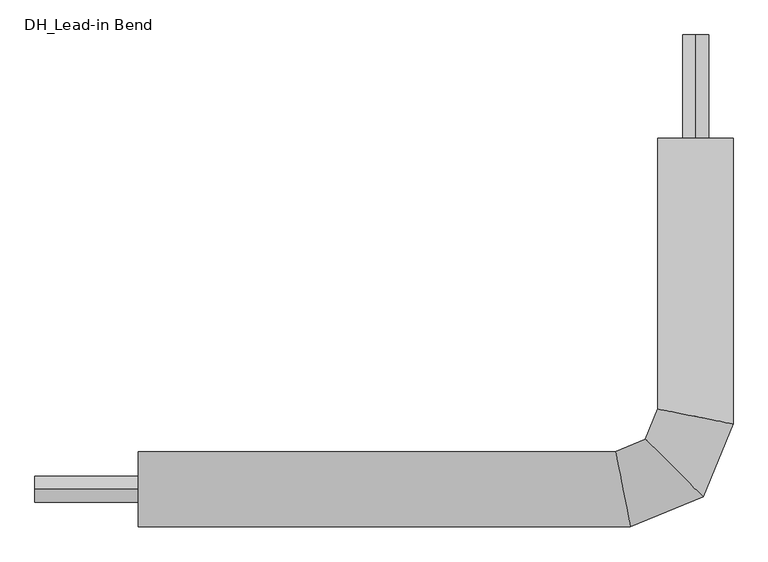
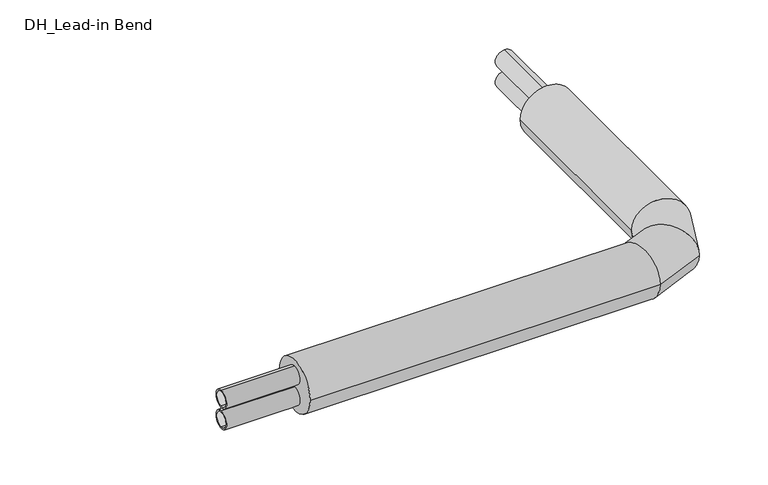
"""IFC4 building model written with IfcOpenShell, lengths in millimetres: pipe fitting geometry, DH_Lead-in Bend : RVT/RVX/RTX DUO 11 Heating Horizontal."""

from ifc_helpers import new_model, si_unit, point, frame, frame_2d, origin, place, context, project, spatial, circle_curve, ellipse_curve, trimmed, segment, composite_curve, outline, extrude, source, transform, mapped, element, save
from ifc_brep_helpers import plane_surface, cylinder_surface, advanced_brep


def dh_lead_in_bend_34a14ad4(model_context):
    return source(origin(), model_context, "Body", "SolidModel", [
        extrude(outline(composite_curve([segment(trimmed(circle_curve(frame_2d((0.0, -37.5)), 31.5), [point((0.0, -6.0))], [point((0.0, -69.0))], False, "CARTESIAN"), True, "CONTINUOUS"), segment(trimmed(circle_curve(frame_2d((0.0, -37.5)), 31.5), [point((0.0, -69.0))], [point((0.0, -6.0))], False, "CARTESIAN"), True, "CONTINUOUS")], self_intersect=False), holes=[composite_curve([segment(trimmed(circle_curve(frame_2d((0.0, -37.5)), 25.7), [point((0.0, -11.8))], [point((0.0, -63.2))], True, "CARTESIAN"), True, "CONTINUOUS"), segment(trimmed(circle_curve(frame_2d((0.0, -37.5)), 25.7), [point((0.0, -63.2))], [point((0.0, -11.8))], True, "CARTESIAN"), True, "CONTINUOUS")], self_intersect=False)]), frame((-1600.0, 0.0, 0.0), z_axis=(1.0, 0.0, 0.0), x_axis=(0.0, 1.0, 0.0)), (0.0, 0.0, 1.0), 250.0),
        extrude(outline(composite_curve([segment(trimmed(circle_curve(frame_2d((37.5, 0.0)), 31.5), [point((6.0, 0.0))], [point((69.0, 0.0))], False, "CARTESIAN"), True, "CONTINUOUS"), segment(trimmed(circle_curve(frame_2d((37.5, 0.0)), 31.5), [point((69.0, 0.0))], [point((6.0, 0.0))], False, "CARTESIAN"), True, "CONTINUOUS")], self_intersect=False), holes=[composite_curve([segment(trimmed(circle_curve(frame_2d((37.5, 0.0)), 25.7), [point((11.8, 0.0))], [point((63.2, 0.0))], True, "CARTESIAN"), True, "CONTINUOUS"), segment(trimmed(circle_curve(frame_2d((37.5, 0.0)), 25.7), [point((63.2, 0.0))], [point((11.8, 0.0))], True, "CARTESIAN"), True, "CONTINUOUS")], self_intersect=False)]), frame((0.0, 850.0, 0.0), z_axis=(0.0, 1.0, 0.0), x_axis=(0.0, 0.0, 1.0)), (0.0, 0.0, 1.0), 250.0),
        advanced_brep(
        [(-1350.0, -91.0, 0.0), (-1350.0, 91.0, 0.0), (-157.7989746, -91.0, 0.0), (-194.0010254, 91.0, 0.0), (91.0, 850.0, 0.0), (-91.0, 850.0, 0.0), (-91.0, 194.0010254, 0.0), (91.0, 157.7989746, 0.0), (18.1284675, -18.1284675, 0.0), (-121.1683019, 121.1683019, 0.0)],
        [
            (0, 1, circle_curve(frame((-1350.0, 0.0, 0.0), z_axis=(-1.0, 0.0, 0.0), x_axis=(0.0, 1.0, 0.0)), 91.0)),
            (1, 0, circle_curve(frame((-1350.0, 0.0, 0.0), z_axis=(-1.0, 0.0, 0.0), x_axis=(0.0, 1.0, 0.0)), 91.0)),
            (0, 2),
            (2, 3, ellipse_curve(frame((-175.9, 0.0, 0.0), z_axis=(-0.9807852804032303, -0.19509032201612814, 0.0), x_axis=(-0.19509032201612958, 0.9807852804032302, 0.0)), 92.7827954, 91.0)),
            (3, 1),
            (3, 2, ellipse_curve(frame((-175.9, 0.0, 0.0), z_axis=(-0.9807852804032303, -0.19509032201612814, 0.0), x_axis=(-0.19509032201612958, 0.9807852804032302, 0.0)), 92.7827954, 91.0)),
            (4, 5, circle_curve(frame((0.0, 850.0, 0.0), z_axis=(0.0, 1.0, 0.0), x_axis=(-1.0, 0.0, 0.0)), 91.0)),
            (5, 4, circle_curve(frame((0.0, 850.0, 0.0), z_axis=(0.0, 1.0, 0.0), x_axis=(-1.0, 0.0, 0.0)), 91.0)),
            (6, 7, ellipse_curve(frame((0.0, 175.9, 0.0), z_axis=(0.1950903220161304, 0.9807852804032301, 0.0), x_axis=(0.9807852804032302, -0.1950903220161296, 0.0)), 92.7827954, 91.0)),
            (7, 4),
            (5, 6),
            (7, 6, ellipse_curve(frame((0.0, 175.9, 0.0), z_axis=(0.1950903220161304, 0.9807852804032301, 0.0), x_axis=(0.9807852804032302, -0.1950903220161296, 0.0)), 92.7827954, 91.0)),
            (2, 8),
            (8, 9, ellipse_curve(frame((-51.5199172, 51.5199172, 0.0), z_axis=(-0.707106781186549, -0.7071067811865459, 0.0), x_axis=(-0.7071067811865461, 0.7071067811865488, 0.0)), 98.4976902, 91.0)),
            (9, 3),
            (9, 8, ellipse_curve(frame((-51.5199172, 51.5199172, 0.0), z_axis=(-0.707106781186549, -0.7071067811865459, 0.0), x_axis=(-0.7071067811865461, 0.7071067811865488, 0.0)), 98.4976902, 91.0)),
            (8, 7),
            (6, 9),
        ],
        [
            plane_surface(frame((-1350.0, 0.0, 0.0), z_axis=(-1.0, 0.0, 0.0), x_axis=(0.0, 0.0, 1.0))),
            cylinder_surface(frame((-1350.0, 0.0, 0.0), z_axis=(-1.0, 0.0, 0.0), x_axis=(0.0, 1.0, 0.0)), 91.0),
            plane_surface(frame((0.0, 850.0, 0.0), z_axis=(0.0, 1.0, 0.0), x_axis=(0.0, 0.0, 1.0))),
            cylinder_surface(frame((0.0, 175.9, 0.0), z_axis=(0.0, -1.0, 0.0), x_axis=(-1.0, 0.0, 0.0)), 91.0),
            cylinder_surface(frame((-175.9, 0.0, 0.0), z_axis=(-0.9238795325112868, -0.3826834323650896, 0.0), x_axis=(-0.3826834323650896, 0.9238795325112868, 0.0)), 91.0),
            cylinder_surface(frame((-51.5199172, 51.5199172, 0.0), z_axis=(-0.3826834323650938, -0.9238795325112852, 0.0), x_axis=(-0.9238795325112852, 0.3826834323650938, 0.0)), 91.0),
        ],
        [
            (0, [[1, 2]]),
            (1, [[-1, 3, 4, 5]]),
            (1, [[-2, -5, 6, -3]]),
            (2, [[7, 8]]),
            (3, [[9, 10, -8, 11]]),
            (3, [[12, -11, -7, -10]]),
            (4, [[-4, 13, 14, 15]]),
            (4, [[-6, -15, 16, -13]]),
            (5, [[-14, 17, -9, 18]]),
            (5, [[-16, -18, -12, -17]]),
        ],
    ),
        extrude(outline(composite_curve([segment(trimmed(circle_curve(frame_2d((0.0, 37.5)), 31.5), [point((0.0, 6.0))], [point((0.0, 69.0))], False, "CARTESIAN"), True, "CONTINUOUS"), segment(trimmed(circle_curve(frame_2d((0.0, 37.5)), 31.5), [point((0.0, 69.0))], [point((0.0, 6.0))], False, "CARTESIAN"), True, "CONTINUOUS")], self_intersect=False), holes=[composite_curve([segment(trimmed(circle_curve(frame_2d((0.0, 37.5)), 25.7), [point((0.0, 11.8))], [point((0.0, 63.2))], True, "CARTESIAN"), True, "CONTINUOUS"), segment(trimmed(circle_curve(frame_2d((0.0, 37.5)), 25.7), [point((0.0, 63.2))], [point((0.0, 11.8))], True, "CARTESIAN"), True, "CONTINUOUS")], self_intersect=False)]), frame((-1600.0, 0.0, 0.0), z_axis=(1.0, 0.0, 0.0), x_axis=(0.0, 1.0, 0.0)), (0.0, 0.0, 1.0), 250.0),
        extrude(outline(composite_curve([segment(trimmed(circle_curve(frame_2d((-37.5, 0.0)), 31.5), [point((-6.0, 0.0))], [point((-69.0, 0.0))], False, "CARTESIAN"), True, "CONTINUOUS"), segment(trimmed(circle_curve(frame_2d((-37.5, 0.0)), 31.5), [point((-69.0, 0.0))], [point((-6.0, 0.0))], False, "CARTESIAN"), True, "CONTINUOUS")], self_intersect=False), holes=[composite_curve([segment(trimmed(circle_curve(frame_2d((-37.5, 0.0)), 25.7), [point((-11.8, 0.0))], [point((-63.2, 0.0))], True, "CARTESIAN"), True, "CONTINUOUS"), segment(trimmed(circle_curve(frame_2d((-37.5, 0.0)), 25.7), [point((-63.2, 0.0))], [point((-11.8, 0.0))], True, "CARTESIAN"), True, "CONTINUOUS")], self_intersect=False)]), frame((0.0, 850.0, 0.0), z_axis=(0.0, 1.0, 0.0), x_axis=(0.0, 0.0, 1.0)), (0.0, 0.0, 1.0), 250.0),
    ])


if __name__ == "__main__":
    model = new_model("IFC4")
    model_context = context("Model", 3, world=origin())
    ifc_project = project(units=[si_unit("LENGTHUNIT", "METRE", prefix="MILLI")], contexts=[model_context])
    site = spatial("IfcSite", under=ifc_project)
    building = spatial("IfcBuilding", under=site)
    placement = place(None, origin())
    dh_lead_in_bend_shape = dh_lead_in_bend_34a14ad4(model_context)
    element("IfcPipeFitting", 1, ObjectType="DH_Lead-in Bend : RVT/RVX/RTX DUO 11 Heating Horizontal", at=placement, inside=building, context=model_context, shape_type="MappedRepresentation", body=[
        mapped(dh_lead_in_bend_shape, transform((0.0, 0.0, 0.0), x_axis=(1.0, 0.0, 0.0), y_axis=(0.0, 1.0, 0.0), z_axis=(0.0, 0.0, 1.0))),
    ])
    save(model, "model.ifc")
